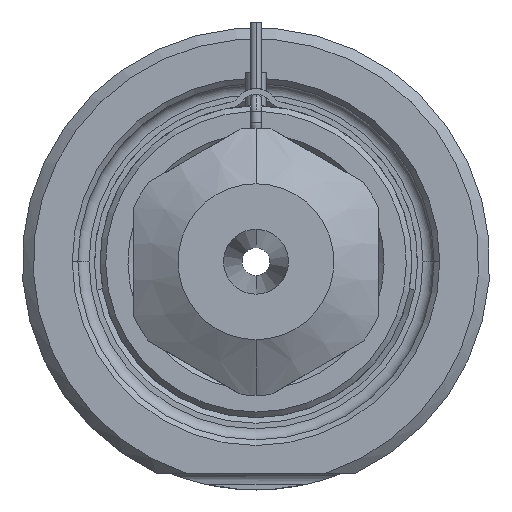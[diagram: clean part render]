
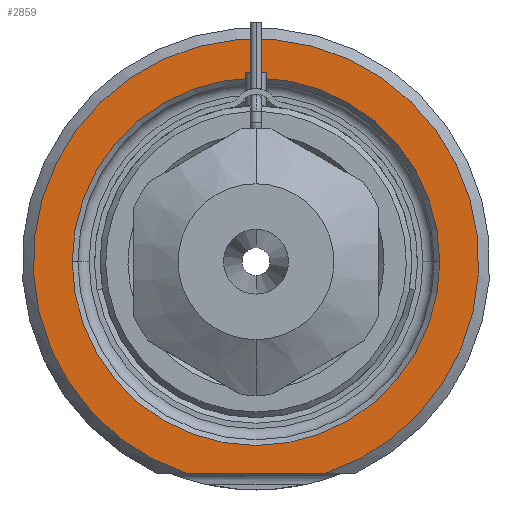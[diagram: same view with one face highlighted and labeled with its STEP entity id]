
A CAD part, front view. The second image highlights one B-rep face of the part: STEP entity #2859.
In plain terms, the highlighted planar face has unit normal (0, -1, 0).
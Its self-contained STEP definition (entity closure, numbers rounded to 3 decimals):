
#1=DIRECTION('',(1.,0.,0.));
#2=VECTOR('',#1,12.49);
#3=CARTESIAN_POINT('',(-6.245,0.,-19.));
#4=LINE('',#3,#2);
#5=CARTESIAN_POINT('',(0.,0.,0.));
#6=DIRECTION('',(0.,1.,0.));
#7=DIRECTION('',(-1.,0.,0.));
#8=AXIS2_PLACEMENT_3D('',#5,#6,#7);
#10=CARTESIAN_POINT('',(0.,0.,0.));
#11=DIRECTION('',(0.,1.,0.));
#12=DIRECTION('',(1.,0.,0.));
#13=AXIS2_PLACEMENT_3D('',#10,#11,#12);
#119=CARTESIAN_POINT('',(0.,0.,0.));
#120=DIRECTION('',(0.,-1.,0.));
#121=DIRECTION('',(0.312,0.,-0.95));
#122=AXIS2_PLACEMENT_3D('',#119,#120,#121);
#2380=CARTESIAN_POINT('',(-16.5,0.,0.));
#2381=CARTESIAN_POINT('',(16.5,0.,0.));
#2382=VERTEX_POINT('',#2380);
#2383=VERTEX_POINT('',#2381);
#2420=CARTESIAN_POINT('',(-6.245,0.,-19.));
#2421=CARTESIAN_POINT('',(6.245,0.,-19.));
#2422=VERTEX_POINT('',#2420);
#2423=VERTEX_POINT('',#2421);
#2842=CARTESIAN_POINT('',(0.,0.,0.));
#2843=DIRECTION('',(0.,-1.,0.));
#2844=DIRECTION('',(1.,0.,0.));
#2845=AXIS2_PLACEMENT_3D('',#2842,#2843,#2844);
#2846=PLANE('',#2845);
#2848=ORIENTED_EDGE('',*,*,#2847,.F.);
#2850=ORIENTED_EDGE('',*,*,#2849,.F.);
#2851=EDGE_LOOP('',(#2848,#2850));
#2852=FACE_OUTER_BOUND('',#2851,.F.);
#2854=ORIENTED_EDGE('',*,*,#2853,.F.);
#2856=ORIENTED_EDGE('',*,*,#2855,.F.);
#2857=EDGE_LOOP('',(#2854,#2856));
#2858=FACE_BOUND('',#2857,.F.);
#2859=ADVANCED_FACE('',(#2852,#2858),#2846,.T.);
#9=CIRCLE('',#8,16.5);
#14=CIRCLE('',#13,16.5);
#123=CIRCLE('',#122,20.);
#2847=EDGE_CURVE('',#2422,#2423,#4,.T.);
#2849=EDGE_CURVE('',#2423,#2422,#123,.T.);
#2853=EDGE_CURVE('',#2382,#2383,#9,.T.);
#2855=EDGE_CURVE('',#2383,#2382,#14,.T.);
